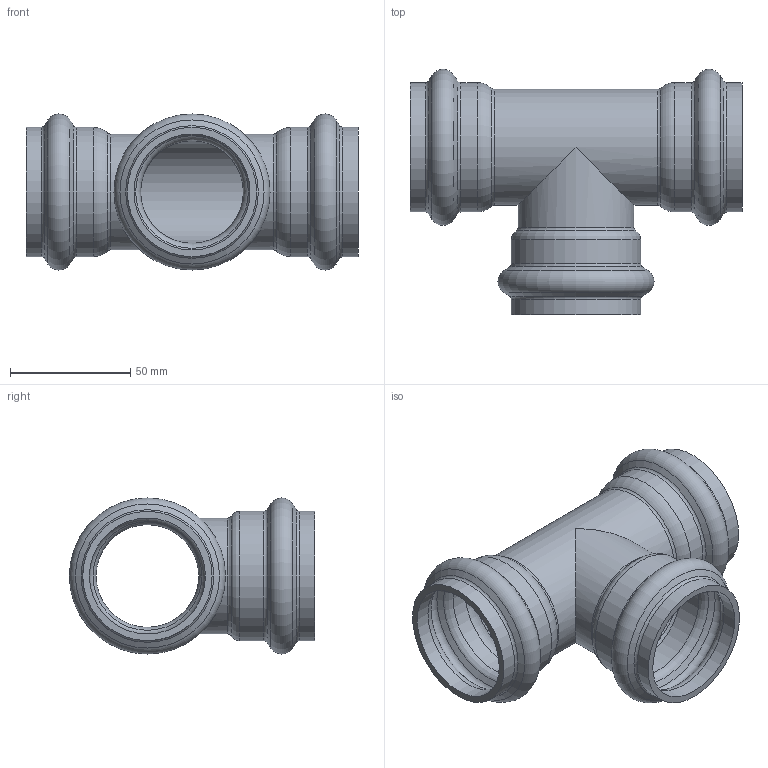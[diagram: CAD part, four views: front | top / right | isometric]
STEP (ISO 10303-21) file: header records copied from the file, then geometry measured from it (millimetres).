
FILE_DESCRIPTION(/* description */ ('VIC TEE STYLE P592 (P X P X P)','CAx-IF Rec.Pracs.---Representation and Presentation of Product Manufacturing Information (PMI)---4.0---2014-10-13'),/* implementation_level */ '2;1');
FILE_NAME(/* name */ 'C:\Users\Vjadhav\AppData\Roaming\Autodesk\ApplicationPlugins\Back Up\Victaulic_SS-Vic-Press-TP 304_Tee_Style P592 (VP)\Victaulic_SS-Vic-Press-TP 304_Tee_Style P592 (VP)_1.5 (40).stp',/* time_stamp */ '2020-08-12T19:00:55+06:00',/* author */ ('cgray'),/* organization */ ('Victaulic'),/* preprocessor_version */ 'ST-DEVELOPER v17.2',/* originating_system */ 'Autodesk Inventor 2019',/* authorisation */ '');
FILE_SCHEMA (('AP242_MANAGED_MODEL_BASED_3D_ENGINEERING_MIM_LF { 1 0 10303 442 1 1 4 }'));
Length unit declared in the file: inch
Products named in the file (1): P592-01.5
Bounding box: 138.18 x 102.08 x 64.97 mm (x, y, z)
Volume: 85839.5 mm3; surface area: 63320.4 mm2
Topology: 1 solids, 1 shells, 61 faces, 220 edges, 160 vertices
Faces by surface type: torus 30, cylinder 16, cone 12, plane 3
Full cylindrical faces by diameter (mm): 42.723 x2, 48.26 x8, 53.797 x6
Entity records: 2745 total; most frequent: DIRECTION 560, CARTESIAN_POINT 459, ORIENTED_EDGE 440, AXIS2_PLACEMENT_3D 265, EDGE_CURVE 220, CIRCLE 182, VERTEX_POINT 160, EDGE_LOOP 64
